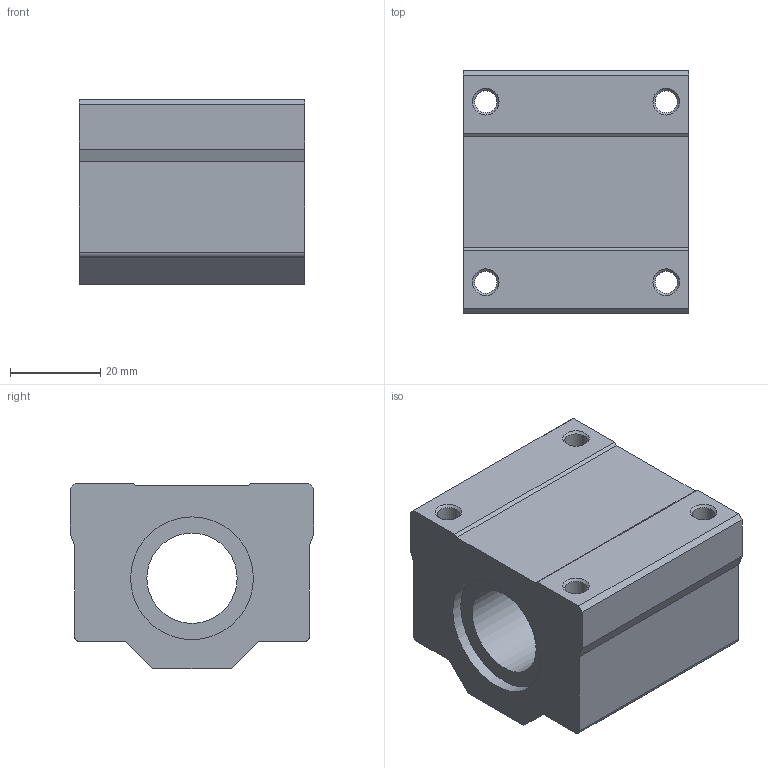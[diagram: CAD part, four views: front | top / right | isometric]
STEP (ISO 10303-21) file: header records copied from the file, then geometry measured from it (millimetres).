
FILE_DESCRIPTION( ( 'Unknown' ), '1' );
FILE_NAME( 'D:/累诀/己绕皋墨飘肺葱胶/11-04-06_档搁累己/01_府聪绢何教/SC/SC 20.stp', 'Unknown', ( 'Unknown' ), ( 'Unknown' ), 'PSStep 11.0', 'Unknown', ' ' );
FILE_SCHEMA( ( 'AUTOMOTIVE_DESIGN { 1 0 10303 214 1 1 1 1 }' ) );
Length unit declared in the file: millimetre
Products named in the file (1): 1
Bounding box: 50 x 54 x 41 mm (x, y, z)
Volume: 78764.2 mm3; surface area: 17532.7 mm2
Topology: 1 solids, 1 shells, 39 faces, 108 edges, 73 vertices
Faces by surface type: plane 22, cylinder 13, cone 4
Full cylindrical faces by diameter (mm): 4.917 x8, 20 x1, 27.2 x2
Entity records: 1426 total; most frequent: DIRECTION 188, CARTESIAN_POINT 184, ORIENTED_EDGE 164, EDGE_CURVE 82, AXIS2_PLACEMENT_3D 66, EDGE_LOOP 66, VERTEX_POINT 62, LINE 56
